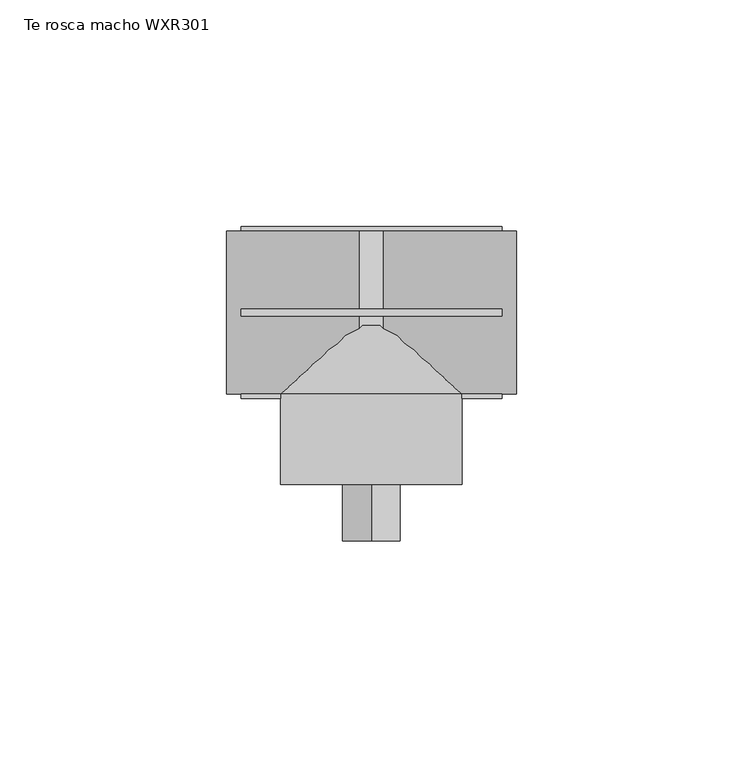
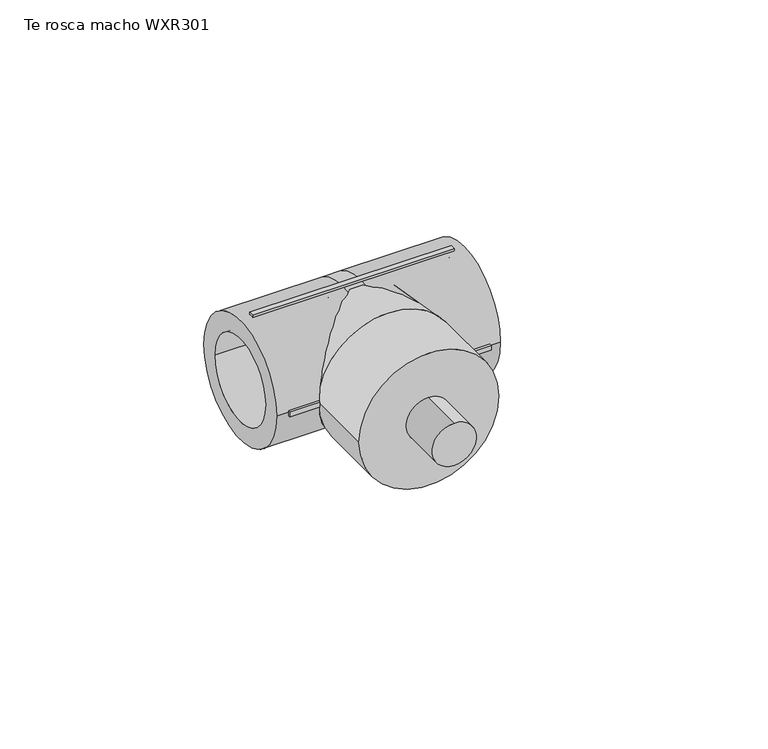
"""IFC4 building model written with IfcOpenShell, lengths in millimetres: pipe fitting geometry, EGB_VASEN_ PPR_Te rosca macho WXR301 : Te rosca macho WXR301."""

from ifc_helpers import new_model, si_unit, point, frame, origin, origin_2d, place, context, project, spatial, polyline, circle_curve, trimmed, segment, composite_curve, outline, extrude, source, transform, mapped, element, save
from ifc_brep_helpers import plane_surface, cylinder_surface, revolved_surface, advanced_brep


def te_rosca_macho_wxr301_3336f094(model_context):
    return source(origin(), model_context, "Body", "SolidModel", [
        extrude(outline(composite_curve([segment(trimmed(circle_curve(origin_2d(), 6.35), [point((-6.35, 0.0))], [point((6.35, 0.0))], False, "CARTESIAN"), True, "CONTINUOUS"), segment(trimmed(circle_curve(origin_2d(), 6.35), [point((6.35, 0.0))], [point((-6.35, 0.0))], False, "CARTESIAN"), True, "CONTINUOUS")], self_intersect=False)), frame((0.0, -50.5, 0.0), z_axis=(0.0, 1.0, 0.0), x_axis=(0.0, 0.0, 1.0)), (0.0, 0.0, 1.0), 31.5),
        advanced_brep(
        [(2.56, -12.5, 0.0), (2.56, 12.5, 0.0), (-2.56, 12.5, 0.0), (-2.56, -12.5, 0.0), (-2.56, 18.0, 0.0), (2.56, 18.0, 0.0), (2.56, -18.0, 0.0), (-2.56, -18.0, 0.0), (32.0, -18.0, 0.0), (32.0, 18.0, 0.0), (32.0, -12.5, 0.0), (32.0, 12.5, 0.0), (-32.0, -18.0, 0.0), (-32.0, 18.0, 0.0), (-32.0, -12.5, 0.0), (-32.0, 12.5, 0.0)],
        [
            (0, 1, circle_curve(frame((2.56, 0.0, 0.0), z_axis=(1.0, 0.0, 0.0), x_axis=(0.0, 1.0, 0.0)), 12.5)),
            (1, 0, circle_curve(frame((2.56, 0.0, 0.0), z_axis=(1.0, 0.0, 0.0), x_axis=(0.0, 1.0, 0.0)), 12.5)),
            (2, 3, circle_curve(frame((-2.56, 0.0, 0.0), z_axis=(-1.0, 0.0, 0.0), x_axis=(0.0, 1.0, 0.0)), 12.5)),
            (3, 2, circle_curve(frame((-2.56, 0.0, 0.0), z_axis=(-1.0, 0.0, 0.0), x_axis=(0.0, 1.0, 0.0)), 12.5)),
            (4, 5),
            (5, 6, circle_curve(frame((2.56, 0.0, 0.0), z_axis=(-1.0, 0.0, 0.0), x_axis=(0.0, 0.0, -1.0)), 18.0)),
            (6, 7),
            (7, 4, circle_curve(frame((-2.56, 0.0, 0.0), z_axis=(1.0, 0.0, 0.0), x_axis=(0.0, 0.0, -1.0)), 18.0)),
            (4, 7, circle_curve(frame((-2.56, 0.0, 0.0), z_axis=(1.0, 0.0, 0.0), x_axis=(0.0, 0.0, 1.0)), 18.0)),
            (6, 5, circle_curve(frame((2.56, 0.0, 0.0), z_axis=(-1.0, 0.0, 0.0), x_axis=(0.0, 0.0, 1.0)), 18.0)),
            (8, 9, circle_curve(frame((32.0, 0.0, 0.0), z_axis=(1.0, 0.0, 0.0), x_axis=(0.0, 1.0, 0.0)), 18.0)),
            (9, 8, circle_curve(frame((32.0, 0.0, 0.0), z_axis=(1.0, 0.0, 0.0), x_axis=(0.0, 1.0, 0.0)), 18.0)),
            (10, 11, circle_curve(frame((32.0, 0.0, 0.0), z_axis=(-1.0, 0.0, 0.0), x_axis=(0.0, 1.0, 0.0)), 12.5)),
            (11, 10, circle_curve(frame((32.0, 0.0, 0.0), z_axis=(-1.0, 0.0, 0.0), x_axis=(0.0, 1.0, 0.0)), 12.5)),
            (9, 5),
            (6, 8),
            (11, 1),
            (0, 10),
            (12, 13, circle_curve(frame((-32.0, 0.0, 0.0), z_axis=(-1.0, 0.0, 0.0), x_axis=(0.0, 1.0, 0.0)), 18.0)),
            (13, 12, circle_curve(frame((-32.0, 0.0, 0.0), z_axis=(-1.0, 0.0, 0.0), x_axis=(0.0, 1.0, 0.0)), 18.0)),
            (14, 15, circle_curve(frame((-32.0, 0.0, 0.0), z_axis=(1.0, 0.0, 0.0), x_axis=(0.0, 1.0, 0.0)), 12.5)),
            (15, 14, circle_curve(frame((-32.0, 0.0, 0.0), z_axis=(1.0, 0.0, 0.0), x_axis=(0.0, 1.0, 0.0)), 12.5)),
            (12, 7),
            (4, 13),
            (14, 3),
            (2, 15),
        ],
        [
            plane_surface(frame((2.56, 0.0, 0.0), z_axis=(1.0, 0.0, 0.0), x_axis=(0.0, 0.0, -1.0))),
            plane_surface(frame((-2.56, 0.0, 0.0), z_axis=(-1.0, 0.0, 0.0), x_axis=(0.0, 0.0, -1.0))),
            cylinder_surface(frame((-2.56, 0.0, 0.0), z_axis=(1.0, 0.0, 0.0), x_axis=(0.0, 0.0, -1.0)), 18.0),
            cylinder_surface(frame((-2.56, 0.0, 0.0), z_axis=(1.0, 0.0, 0.0), x_axis=(0.0, 0.0, 1.0)), 18.0),
            plane_surface(frame((32.0, 0.0, 0.0), z_axis=(1.0, 0.0, 0.0), x_axis=(0.0, 0.0, 1.0))),
            cylinder_surface(frame((2.56, 0.0, 0.0), z_axis=(-1.0, 0.0, 0.0), x_axis=(0.0, 1.0, 0.0)), 18.0),
            revolved_surface(polyline([(32.0, 12.5, 0.0), (2.56, 12.5, 0.0)]), (2.56, 0.0, 0.0), (1.0, 0.0, 0.0)),
            plane_surface(frame((-32.0, 0.0, 0.0), z_axis=(-1.0, 0.0, 0.0), x_axis=(0.0, 0.0, 1.0))),
            cylinder_surface(frame((-32.0, 0.0, 0.0), z_axis=(-1.0, 0.0, 0.0), x_axis=(0.0, 1.0, 0.0)), 18.0),
            revolved_surface(polyline([(-2.5599999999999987, 12.5, 0.0), (-32.0, 12.5, 0.0)]), (-32.0, 0.0, 0.0), (1.0, 0.0, 0.0)),
        ],
        [
            (0, [[1, 2]]),
            (1, [[3, 4]]),
            (2, [[5, 6, 7, 8]]),
            (3, [[-5, 9, -7, 10]]),
            (4, [[11, 12], [13, 14]]),
            (5, [[-12, 15, -10, 16]]),
            (5, [[-11, -16, -6, -15]]),
            (6, [[-14, 17, -1, 18]]),
            (6, [[-13, -18, -2, -17]]),
            (7, [[19, 20], [21, 22]]),
            (8, [[-19, 23, -9, 24]]),
            (8, [[-20, -24, -8, -23]]),
            (9, [[-21, 25, -3, 26]]),
            (9, [[-22, -26, -4, -25]]),
        ],
    ),
        extrude(outline(composite_curve([segment(trimmed(circle_curve(origin_2d(), 20.0), [point((0.0, 20.0))], [point((0.0, -20.0))], False, "CARTESIAN"), True, "CONTINUOUS"), segment(trimmed(circle_curve(origin_2d(), 20.0), [point((0.0, -20.0))], [point((0.0, 20.0))], False, "CARTESIAN"), True, "CONTINUOUS")], self_intersect=False), holes=[composite_curve([segment(trimmed(circle_curve(origin_2d(), 6.35), [point((0.0, 6.35))], [point((0.0, -6.35))], True, "CARTESIAN"), True, "CONTINUOUS"), segment(trimmed(circle_curve(origin_2d(), 6.35), [point((0.0, -6.35))], [point((0.0, 6.35))], True, "CARTESIAN"), True, "CONTINUOUS")], self_intersect=False)]), frame((0.0, -38.0, 0.0), z_axis=(0.0, 1.0, 0.0), x_axis=(0.0, 0.0, 1.0)), (0.0, 0.0, 1.0), 20.0),
        advanced_brep(
        [(18.0, 0.0, 0.0), (-18.0, 0.0, 0.0), (20.0, -18.0, 0.0), (-20.0, -18.0, 0.0)],
        [
            (0, 1, circle_curve(frame((0.0, 0.0, 0.0), z_axis=(0.0, 1.0, 0.0), x_axis=(1.0, 0.0, 0.0)), 18.0)),
            (1, 0, circle_curve(frame((0.0, 0.0, 0.0), z_axis=(0.0, 1.0, 0.0), x_axis=(-1.0, 0.0, 0.0)), 18.0)),
            (2, 3, circle_curve(frame((0.0, -18.0, 0.0), z_axis=(0.0, -1.0, 0.0), x_axis=(-1.0, 0.0, 0.0)), 20.0)),
            (3, 2, circle_curve(frame((0.0, -18.0, 0.0), z_axis=(0.0, -1.0, 0.0), x_axis=(1.0, 0.0, 0.0)), 20.0)),
            (3, 1),
            (0, 2),
        ],
        [
            plane_surface(frame((0.0, 0.0, 0.0), z_axis=(0.0, 1.0, 0.0), x_axis=(0.0, 0.0, -1.0))),
            plane_surface(frame((0.0, -18.0, 0.0), z_axis=(0.0, -1.0, 0.0), x_axis=(0.0, 0.0, -1.0))),
            revolved_surface(polyline([(18.0, 0.0, 0.0), (20.0, -18.0, 0.0)]), (0.0, 162.0, 0.0), (0.0, -1.0, 0.0)),
            revolved_surface(polyline([(-18.0, 0.0, 0.0), (-20.0, -18.0, 0.0)]), (0.0, 162.0, 0.0), (0.0, -1.0, 0.0)),
        ],
        [
            (0, [[1, 2]]),
            (1, [[3, 4]]),
            (2, [[-4, 5, -1, 6]]),
            (3, [[-3, -6, -2, -5]]),
        ],
    ),
        extrude(outline(polyline([(28.8, 0.75), (28.8, -0.75), (-28.8, -0.75), (-28.8, 0.75), (28.8, 0.75)])), frame((0.0, 0.0, 17.0), z_axis=(0.0, 0.0, 1.0), x_axis=(1.0, 0.0, 0.0)), (0.0, 0.0, 1.0), 2.0),
        extrude(outline(polyline([(28.8, 0.75), (28.8, -0.75), (-28.8, -0.75), (-28.8, 0.75), (28.8, 0.75)])), frame((0.0, 0.0, -19.0), z_axis=(0.0, 0.0, 1.0), x_axis=(1.0, 0.0, 0.0)), (0.0, 0.0, 1.0), 2.0),
        extrude(outline(polyline([(28.8, 19.0), (28.8, 17.0), (-28.8, 17.0), (-28.8, 19.0), (28.8, 19.0)])), frame((0.0, 0.0, -0.75), z_axis=(0.0, 0.0, 1.0), x_axis=(1.0, 0.0, 0.0)), (0.0, 0.0, 1.0), 1.5),
        extrude(outline(polyline([(28.8, -17.0), (28.8, -19.0), (-28.8, -19.0), (-28.8, -17.0), (28.8, -17.0)])), frame((0.0, 0.0, -0.75), z_axis=(0.0, 0.0, 1.0), x_axis=(1.0, 0.0, 0.0)), (0.0, 0.0, 1.0), 1.5),
    ])


if __name__ == "__main__":
    model = new_model("IFC4")
    model_context = context("Model", 3, world=origin())
    ifc_project = project(units=[si_unit("LENGTHUNIT", "METRE", prefix="MILLI")], contexts=[model_context])
    site = spatial("IfcSite", under=ifc_project)
    building = spatial("IfcBuilding", under=site)
    placement = place(None, origin())
    te_rosca_macho_wxr301_shape = te_rosca_macho_wxr301_3336f094(model_context)
    element("IfcPipeFitting", 1, ObjectType="EGB_VASEN_ PPR_Te rosca macho WXR301 : Te rosca macho WXR301", at=placement, inside=building, context=model_context, shape_type="MappedRepresentation", body=[
        mapped(te_rosca_macho_wxr301_shape, transform((0.0, 0.0, 0.0), x_axis=(1.0, 0.0, 0.0), y_axis=(0.0, 1.0, 0.0), z_axis=(0.0, 0.0, 1.0))),
    ])
    save(model, "model.ifc")
